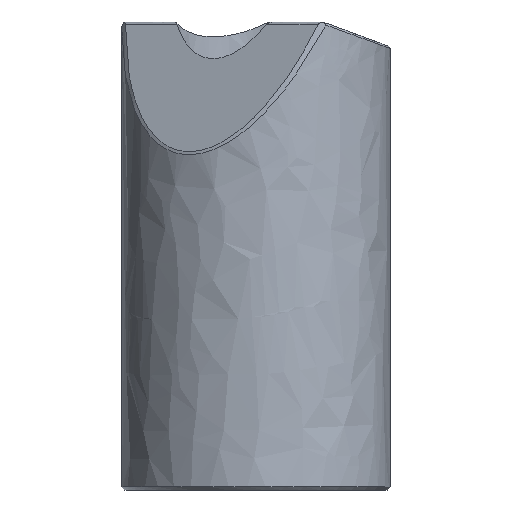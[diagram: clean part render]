
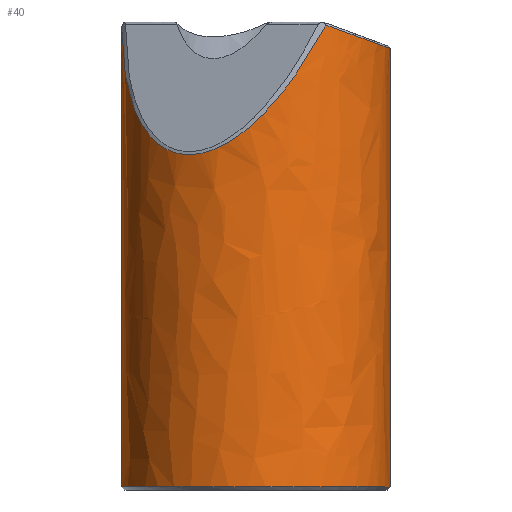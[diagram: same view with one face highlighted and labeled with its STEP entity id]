
A CAD part, front view. The second image highlights one B-rep face of the part: STEP entity #40.
In plain terms, the highlighted free-form (B-spline) face has degree [2, 1] with [5, 2] control points.
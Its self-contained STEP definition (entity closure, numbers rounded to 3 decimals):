
#40=ADVANCED_FACE($,(#67),#461,.T.);
#67=FACE_OUTER_BOUND($,#95,.T.);
#95=EDGE_LOOP($,(#272,#273,#274,#275,#276,#277,#278));
#272=ORIENTED_EDGE($,*,*,#361,.F.);
#273=ORIENTED_EDGE($,*,*,#368,.T.);
#274=ORIENTED_EDGE($,*,*,#367,.T.);
#275=ORIENTED_EDGE($,*,*,#308,.F.);
#276=ORIENTED_EDGE($,*,*,#301,.F.);
#277=ORIENTED_EDGE($,*,*,#374,.F.);
#278=ORIENTED_EDGE($,*,*,#373,.F.);
#301=EDGE_CURVE($,#400,#401,#509,.T.);
#308=EDGE_CURVE($,#401,#402,#516,.T.);
#361=EDGE_CURVE($,#441,#440,#487,.T.);
#367=EDGE_CURVE($,#442,#402,#557,.T.);
#368=EDGE_CURVE($,#441,#442,#558,.T.);
#373=EDGE_CURVE($,#440,#444,#562,.T.);
#374=EDGE_CURVE($,#444,#400,#563,.T.);
#400=VERTEX_POINT($,#1770);
#401=VERTEX_POINT($,#1771);
#402=VERTEX_POINT($,#1772);
#440=VERTEX_POINT($,#1810);
#441=VERTEX_POINT($,#1811);
#442=VERTEX_POINT($,#1812);
#444=VERTEX_POINT($,#1814);
#461=(
BOUNDED_SURFACE()
B_SPLINE_SURFACE(2,1,((#1726,#1727),(#1728,#1729),(#1730,#1731),(#1732,#1733),
(#1734,#1735)),.UNSPECIFIED.,.F.,.F.,.F.)
B_SPLINE_SURFACE_WITH_KNOTS((3,2,3),(2,2),(3.142,4.712,
6.283),(29.656,328.734),.UNSPECIFIED.)
GEOMETRIC_REPRESENTATION_ITEM()
RATIONAL_B_SPLINE_SURFACE(((1.,1.),(0.707,0.707),
(1.,1.),(0.707,0.707),(1.,1.)))
REPRESENTATION_ITEM($)
SURFACE()
);
#487=(
BOUNDED_CURVE()
B_SPLINE_CURVE(2,(#1307,#1308,#1309,#1310,#1311),.UNSPECIFIED.,.F.,.F.)
B_SPLINE_CURVE_WITH_KNOTS((3,2,3),(270.177,405.265,540.354),
.UNSPECIFIED.)
CURVE()
GEOMETRIC_REPRESENTATION_ITEM()
RATIONAL_B_SPLINE_CURVE((1.,0.707,1.,0.707,1.))
REPRESENTATION_ITEM($)
);
#509=B_SPLINE_CURVE_WITH_KNOTS($,3,(#783,#784,#785,#786,#787,#788,#789,#790,
#791,#792),.UNSPECIFIED.,.F.,.F.,(4,2,2,2,4),(-0.147,-0.074,
-0.037,-0.018,-0.018),.UNSPECIFIED.);
#516=B_SPLINE_CURVE_WITH_KNOTS($,3,(#821,#822,#823,#824),.UNSPECIFIED.,.F.,
.F.,(4,4),(-18.078,-14.453),.UNSPECIFIED.);
#557=B_SPLINE_CURVE_WITH_KNOTS($,3,(#1372,#1373,#1374,#1375,#1376,#1377,
#1378,#1379,#1380,#1381,#1382,#1383,#1384,#1385,#1386,#1387,#1388,#1389,
#1390,#1391,#1392,#1393,#1394,#1395,#1396,#1397,#1398,#1399,#1400,#1401,
#1402,#1403,#1404,#1405,#1406,#1407,#1408,#1409,#1410,#1411,#1412,#1413,
#1414,#1415,#1416,#1417,#1418,#1419,#1420,#1421),.UNSPECIFIED.,.F.,.F.,(4,
2,2,2,2,2,2,2,2,2,2,2,2,2,2,2,2,2,2,2,2,2,2,2,4),(0.504,0.505,
0.505,0.506,0.508,0.51,
0.512,0.516,0.52,0.527,
0.535,0.551,0.566,0.582,
0.597,0.628,0.659,0.69,0.721,
0.752,0.814,0.876,0.938,
0.969,1.),.UNSPECIFIED.);
#558=B_SPLINE_CURVE_WITH_KNOTS($,1,(#1422,#1423),.UNSPECIFIED.,.F.,.F.,(2,
2),(29.656,310.656),.UNSPECIFIED.);
#562=B_SPLINE_CURVE_WITH_KNOTS($,1,(#1433,#1434),.UNSPECIFIED.,.F.,.F.,(2,
2),(29.656,322.605),.UNSPECIFIED.);
#563=B_SPLINE_CURVE_WITH_KNOTS($,3,(#1435,#1436,#1437,#1438,#1439,#1440,
#1441,#1442,#1443,#1444,#1445,#1446,#1447,#1448,#1449,#1450),.UNSPECIFIED.,
.F.,.F.,(4,2,2,2,2,2,2,4),(-280.36,-260.091,-222.936,
-185.78,-148.624,-111.468,-74.312,
-44.941),.UNSPECIFIED.);
#783=CARTESIAN_POINT($,(25.708,-82.067,266.655));
#784=CARTESIAN_POINT($,(29.027,-81.027,271.415));
#785=CARTESIAN_POINT($,(32.282,-79.785,276.443));
#786=CARTESIAN_POINT($,(37.038,-77.633,284.328));
#787=CARTESIAN_POINT($,(38.603,-76.867,287.016));
#788=CARTESIAN_POINT($,(40.912,-75.649,291.122));
#789=CARTESIAN_POINT($,(41.674,-75.232,292.502));
#790=CARTESIAN_POINT($,(42.467,-74.782,293.963));
#791=CARTESIAN_POINT($,(42.504,-74.761,294.032));
#792=CARTESIAN_POINT($,(42.542,-74.74,294.101));
#821=CARTESIAN_POINT($,(42.542,-74.74,294.101));
#822=CARTESIAN_POINT($,(43.261,-74.331,295.429));
#823=CARTESIAN_POINT($,(43.974,-73.911,296.768));
#824=CARTESIAN_POINT($,(44.681,-73.481,298.117));
#1307=CARTESIAN_POINT($,(86.,0.,2.));
#1308=CARTESIAN_POINT($,(86.,-86.,2.));
#1309=CARTESIAN_POINT($,(0.,-86.,2.));
#1310=CARTESIAN_POINT($,(-86.,-86.,2.));
#1311=CARTESIAN_POINT($,(-86.,0.,2.));
#1372=CARTESIAN_POINT($,(86.,0.,283.));
#1373=CARTESIAN_POINT($,(86.,-0.429,283.));
#1374=CARTESIAN_POINT($,(85.997,-0.843,283.001));
#1375=CARTESIAN_POINT($,(85.986,-1.611,283.005));
#1376=CARTESIAN_POINT($,(85.978,-1.964,283.008));
#1377=CARTESIAN_POINT($,(85.952,-2.931,283.018));
#1378=CARTESIAN_POINT($,(85.931,-3.465,283.026));
#1379=CARTESIAN_POINT($,(85.866,-4.896,283.05));
#1380=CARTESIAN_POINT($,(85.818,-5.639,283.068));
#1381=CARTESIAN_POINT($,(85.72,-6.969,283.105));
#1382=CARTESIAN_POINT($,(85.67,-7.551,283.123));
#1383=CARTESIAN_POINT($,(85.568,-8.622,283.161));
#1384=CARTESIAN_POINT($,(85.517,-9.111,283.18));
#1385=CARTESIAN_POINT($,(85.363,-10.489,283.237));
#1386=CARTESIAN_POINT($,(85.259,-11.292,283.275));
#1387=CARTESIAN_POINT($,(85.049,-12.772,283.352));
#1388=CARTESIAN_POINT($,(84.944,-13.449,283.391));
#1389=CARTESIAN_POINT($,(84.628,-15.356,283.508));
#1390=CARTESIAN_POINT($,(84.415,-16.467,283.586));
#1391=CARTESIAN_POINT($,(83.989,-18.519,283.742));
#1392=CARTESIAN_POINT($,(83.775,-19.455,283.82));
#1393=CARTESIAN_POINT($,(83.133,-22.095,284.056));
#1394=CARTESIAN_POINT($,(82.703,-23.631,284.213));
#1395=CARTESIAN_POINT($,(81.841,-26.46,284.528));
#1396=CARTESIAN_POINT($,(81.41,-27.75,284.685));
#1397=CARTESIAN_POINT($,(80.546,-30.165,285.));
#1398=CARTESIAN_POINT($,(80.114,-31.29,285.158));
#1399=CARTESIAN_POINT($,(79.249,-33.42,285.473));
#1400=CARTESIAN_POINT($,(78.816,-34.425,285.631));
#1401=CARTESIAN_POINT($,(77.518,-37.3,286.105));
#1402=CARTESIAN_POINT($,(76.653,-39.034,286.421));
#1403=CARTESIAN_POINT($,(74.925,-42.257,287.052));
#1404=CARTESIAN_POINT($,(74.062,-43.744,287.368));
#1405=CARTESIAN_POINT($,(72.336,-46.541,287.999));
#1406=CARTESIAN_POINT($,(71.474,-47.851,288.315));
#1407=CARTESIAN_POINT($,(69.748,-50.334,288.947));
#1408=CARTESIAN_POINT($,(68.885,-51.506,289.263));
#1409=CARTESIAN_POINT($,(67.158,-53.738,289.895));
#1410=CARTESIAN_POINT($,(66.294,-54.798,290.21));
#1411=CARTESIAN_POINT($,(63.699,-57.84,291.159));
#1412=CARTESIAN_POINT($,(61.968,-59.68,291.793));
#1413=CARTESIAN_POINT($,(58.511,-63.073,293.058));
#1414=CARTESIAN_POINT($,(56.785,-64.625,293.69));
#1415=CARTESIAN_POINT($,(53.33,-67.505,294.954));
#1416=CARTESIAN_POINT($,(51.602,-68.831,295.586));
#1417=CARTESIAN_POINT($,(49.008,-70.677,296.535));
#1418=CARTESIAN_POINT($,(48.143,-71.269,296.851));
#1419=CARTESIAN_POINT($,(46.411,-72.408,297.484));
#1420=CARTESIAN_POINT($,(45.55,-72.953,297.801));
#1421=CARTESIAN_POINT($,(44.681,-73.481,298.117));
#1422=CARTESIAN_POINT($,(86.,0.,2.));
#1423=CARTESIAN_POINT($,(86.,0.,283.));
#1433=CARTESIAN_POINT($,(-86.,0.,2.));
#1434=CARTESIAN_POINT($,(-86.,0.,294.949));
#1435=CARTESIAN_POINT($,(-85.999,0.,294.949));
#1436=CARTESIAN_POINT($,(-85.999,-4.626,287.501));
#1437=CARTESIAN_POINT($,(-85.626,-9.252,280.399));
#1438=CARTESIAN_POINT($,(-83.52,-22.189,261.527));
#1439=CARTESIAN_POINT($,(-80.911,-30.354,250.804));
#1440=CARTESIAN_POINT($,(-73.423,-45.574,233.259));
#1441=CARTESIAN_POINT($,(-68.547,-52.624,226.44));
#1442=CARTESIAN_POINT($,(-56.947,-65.,217.297));
#1443=CARTESIAN_POINT($,(-50.227,-70.322,214.974));
#1444=CARTESIAN_POINT($,(-35.524,-78.778,215.027));
#1445=CARTESIAN_POINT($,(-27.544,-81.91,217.402));
#1446=CARTESIAN_POINT($,(-11.014,-85.712,226.646));
#1447=CARTESIAN_POINT($,(-2.468,-86.382,233.513));
#1448=CARTESIAN_POINT($,(12.68,-85.324,249.298));
#1449=CARTESIAN_POINT($,(19.311,-84.069,257.483));
#1450=CARTESIAN_POINT($,(25.708,-82.067,266.655));
#1726=CARTESIAN_POINT($,(-86.,0.,2.));
#1727=CARTESIAN_POINT($,(-86.,0.,301.078));
#1728=CARTESIAN_POINT($,(-86.,-86.,2.));
#1729=CARTESIAN_POINT($,(-86.,-86.,301.078));
#1730=CARTESIAN_POINT($,(0.,-86.,2.));
#1731=CARTESIAN_POINT($,(0.,-86.,301.078));
#1732=CARTESIAN_POINT($,(86.,-86.,2.));
#1733=CARTESIAN_POINT($,(86.,-86.,301.078));
#1734=CARTESIAN_POINT($,(86.,0.,2.));
#1735=CARTESIAN_POINT($,(86.,0.,301.078));
#1770=CARTESIAN_POINT($,(25.708,-82.067,266.655));
#1771=CARTESIAN_POINT($,(42.542,-74.74,294.101));
#1772=CARTESIAN_POINT($,(44.681,-73.481,298.117));
#1810=CARTESIAN_POINT($,(-86.,0.,2.));
#1811=CARTESIAN_POINT($,(86.,0.,2.));
#1812=CARTESIAN_POINT($,(86.,0.,283.));
#1814=CARTESIAN_POINT($,(-86.,0.,294.949));
